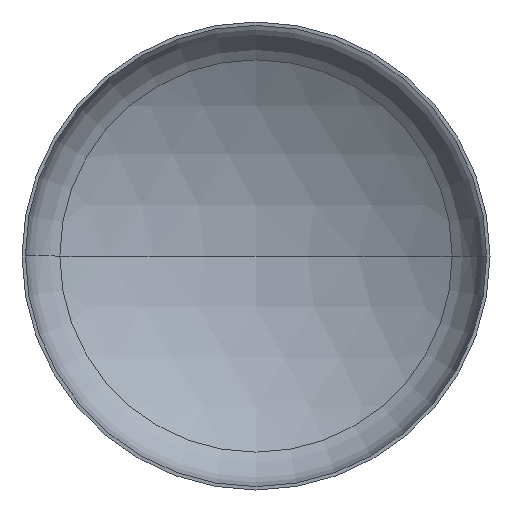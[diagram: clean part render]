
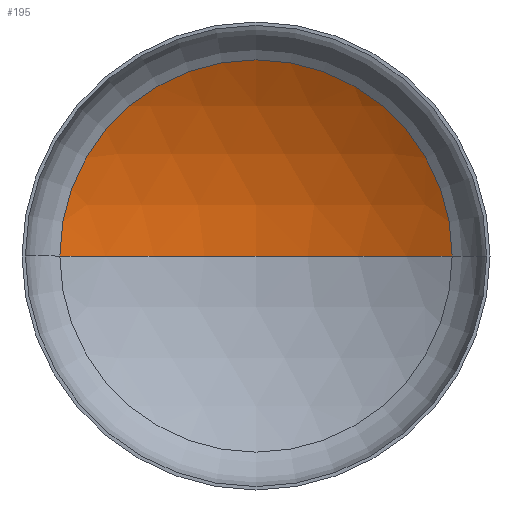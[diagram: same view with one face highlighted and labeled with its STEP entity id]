
A CAD part, front view. The second image highlights one B-rep face of the part: STEP entity #195.
In plain terms, the highlighted spherical face has radius 1760 mm.
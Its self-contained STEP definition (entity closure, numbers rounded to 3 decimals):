
#10 = EDGE_LOOP ( 'NONE', ( #76, #71, #23 ) ) ;
#18 = AXIS2_PLACEMENT_3D ( 'NONE', #326, #125, #149 ) ;
#23 = ORIENTED_EDGE ( 'NONE', *, *, #156, .T. ) ;
#54 = AXIS2_PLACEMENT_3D ( 'NONE', #262, #210, #187 ) ;
#58 = VERTEX_POINT ( 'NONE', #259 ) ;
#71 = ORIENTED_EDGE ( 'NONE', *, *, #157, .T. ) ;
#73 = VERTEX_POINT ( 'NONE', #349 ) ;
#74 = AXIS2_PLACEMENT_3D ( 'NONE', #280, #279, #276 ) ;
#76 = ORIENTED_EDGE ( 'NONE', *, *, #360, .F. ) ;
#77 = AXIS2_PLACEMENT_3D ( 'NONE', #223, #226, #263 ) ;
#105 = VERTEX_POINT ( 'NONE', #288 ) ;
#125 = DIRECTION ( 'NONE',  ( 0., 0., 1. ) ) ;
#144 = CIRCLE ( 'NONE', #18, 1760. ) ;
#149 = DIRECTION ( 'NONE',  ( 1., 0., 0. ) ) ;
#156 = EDGE_CURVE ( 'NONE', #73, #58, #189, .T. ) ;
#157 = EDGE_CURVE ( 'NONE', #105, #73, #368, .T. ) ;
#187 = DIRECTION ( 'NONE',  ( -1., 0., 0. ) ) ;
#189 = CIRCLE ( 'NONE', #77, 922.141 ) ;
#195 = ADVANCED_FACE ( 'NONE', ( #307 ), #255, .F. ) ;
#210 = DIRECTION ( 'NONE',  ( 0., 0., -1. ) ) ;
#223 = CARTESIAN_POINT ( 'NONE',  ( 0., 344.596, 0. ) ) ;
#226 = DIRECTION ( 'NONE',  ( 0., -1., 0. ) ) ;
#255 = SPHERICAL_SURFACE ( 'NONE', #54, 1760. ) ;
#259 = CARTESIAN_POINT ( 'NONE',  ( -922.141, 344.596, 0. ) ) ;
#262 = CARTESIAN_POINT ( 'NONE',  ( 0., -1154.489, 0. ) ) ;
#263 = DIRECTION ( 'NONE',  ( 1., 0., 0. ) ) ;
#276 = DIRECTION ( 'NONE',  ( -1., 0., 0. ) ) ;
#279 = DIRECTION ( 'NONE',  ( 0., 0., -1. ) ) ;
#280 = CARTESIAN_POINT ( 'NONE',  ( 0., -1154.489, 0. ) ) ;
#288 = CARTESIAN_POINT ( 'NONE',  ( 0., 605.511, 0. ) ) ;
#307 = FACE_OUTER_BOUND ( 'NONE', #10, .T. ) ;
#326 = CARTESIAN_POINT ( 'NONE',  ( 0., -1154.489, 0. ) ) ;
#349 = CARTESIAN_POINT ( 'NONE',  ( 922.141, 344.596, 0. ) ) ;
#360 = EDGE_CURVE ( 'NONE', #105, #58, #144, .T. ) ;
#368 = CIRCLE ( 'NONE', #74, 1760. ) ;
